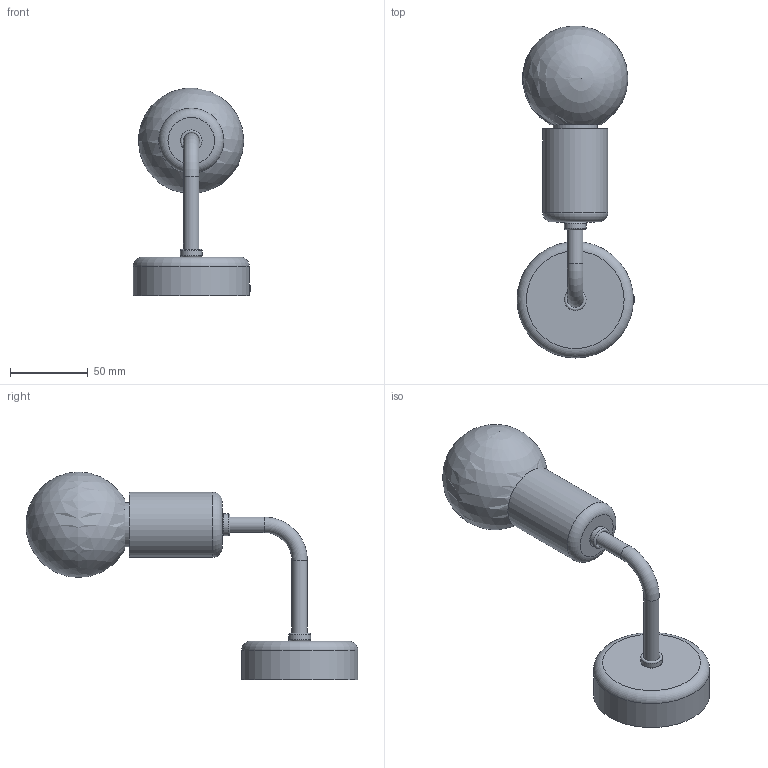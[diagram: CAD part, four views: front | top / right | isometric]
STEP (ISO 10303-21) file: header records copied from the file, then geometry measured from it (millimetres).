
FILE_DESCRIPTION(/* description */ (''),/* implementation_level */ '2;1');
FILE_NAME(/* name */ 'C:\Users\Patryk\Desktop\Modele MOSIĄDZ\T56\KINKIET T56.stp',/* time_stamp */ '2019-12-15T01:38:25+01:00',/* author */ ('Patryk'),/* organization */ (''),/* preprocessor_version */ 'ST-DEVELOPER v17',/* originating_system */ 'Autodesk Inventor 2019',/* authorisation */ '');
FILE_SCHEMA (('AUTOMOTIVE_DESIGN { 1 0 10303 214 3 1 1 }'));
Length unit declared in the file: millimetre
Products named in the file (7): KINKIET T56; T14 mocowanie do ściany; sruba; T56 klosz; T56 rurka; T56 pierscien; klosz II
Assembly tree (7 placements, depth 2):
  KINKIET T56
    T14 mocowanie do ściany
    sruba
    T56 klosz
    T56 rurka
    T56 pierscien  x2
    klosz II
Bounding box: 76 x 213.83 x 133.94 mm (x, y, z)
Volume: 218785 mm3; surface area: 58276.7 mm2
Topology: 7 solids, 7 shells, 42 faces, 99 edges, 68 vertices
Faces by surface type: plane 17, cylinder 15, torus 9, sphere 1
Full cylindrical faces by diameter (mm): 2.5 x1, 4 x2, 8 x1, 10 x4, 14 x2, 28.487 x1, 40 x1, 42 x1, 71 x1, 75 x1
Entity records: 1468 total; most frequent: CARTESIAN_POINT 273, DIRECTION 239, ORIENTED_EDGE 174, AXIS2_PLACEMENT_3D 108, EDGE_CURVE 87, VERTEX_POINT 62, CIRCLE 56, EDGE_LOOP 45
